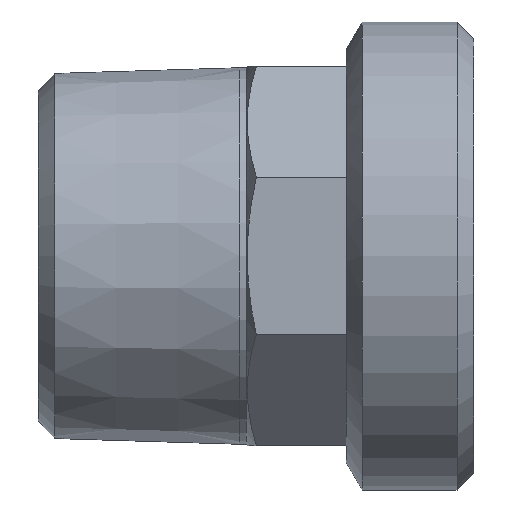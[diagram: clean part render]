
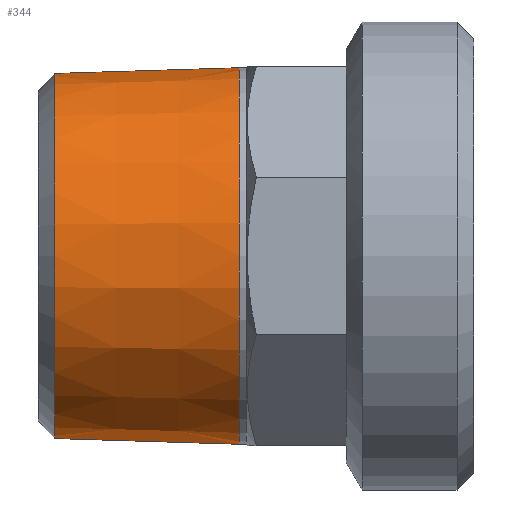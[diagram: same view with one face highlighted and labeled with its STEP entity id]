
A CAD part, top view. The second image highlights one B-rep face of the part: STEP entity #344.
In plain terms, the highlighted conical face has half-angle 1.78 degrees and reference radius 16.58 mm.
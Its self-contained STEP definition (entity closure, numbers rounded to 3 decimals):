
#49=CARTESIAN_POINT('',(18.0,16.859,0.0));
#50=VERTEX_POINT('',#49);
#59=CARTESIAN_POINT('',(18.0,-16.859,0.));
#60=VERTEX_POINT('',#59);
#61=CARTESIAN_POINT('',(18.0,0.0,0.0));
#62=DIRECTION('',(1.0,0.0,0.0));
#63=DIRECTION('',(0.0,1.0,0.0));
#64=AXIS2_PLACEMENT_3D('',#61,#62,#63);
#65=CIRCLE('',#64,16.859);
#66=EDGE_CURVE('',#50,#60,#65,.T.);
#313=CARTESIAN_POINT('',(9.0,0.0,0.0));
#314=DIRECTION('',(1.0,0.0,0.0));
#315=DIRECTION('',(0.0,1.0,0.0));
#316=AXIS2_PLACEMENT_3D('',#313,#314,#315);
#317=CONICAL_SURFACE('',#316,16.58,1.78);
#318=CARTESIAN_POINT('',(1.499,16.347,0.));
#319=VERTEX_POINT('',#318);
#320=CARTESIAN_POINT('',(1.499,16.347,0.));
#321=DIRECTION('',(1.,0.031,0.));
#322=VECTOR('',#321,16.509);
#323=LINE('',#320,#322);
#324=EDGE_CURVE('',#319,#50,#323,.T.);
#325=ORIENTED_EDGE('',*,*,#324,.F.);
#326=CARTESIAN_POINT('',(1.499,-16.347,0.));
#327=VERTEX_POINT('',#326);
#328=CARTESIAN_POINT('',(1.499,0.0,0.));
#329=DIRECTION('',(-1.0,0.0,0.0));
#330=DIRECTION('',(0.0,-1.0,0.0));
#331=AXIS2_PLACEMENT_3D('',#328,#329,#330);
#332=CIRCLE('',#331,16.347);
#333=EDGE_CURVE('',#327,#319,#332,.T.);
#334=ORIENTED_EDGE('',*,*,#333,.F.);
#335=CARTESIAN_POINT('',(18.0,-16.859,0.));
#336=DIRECTION('',(-1.,0.031,0.));
#337=VECTOR('',#336,16.509);
#338=LINE('',#335,#337);
#339=EDGE_CURVE('',#60,#327,#338,.T.);
#340=ORIENTED_EDGE('',*,*,#339,.F.);
#341=ORIENTED_EDGE('',*,*,#66,.F.);
#342=EDGE_LOOP('',(#325,#334,#340,#341));
#343=FACE_OUTER_BOUND('',#342,.T.);
#344=ADVANCED_FACE('',(#343),#317,.T.);
